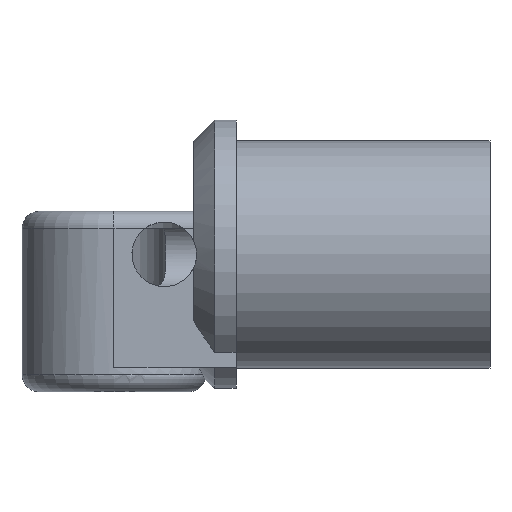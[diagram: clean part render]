
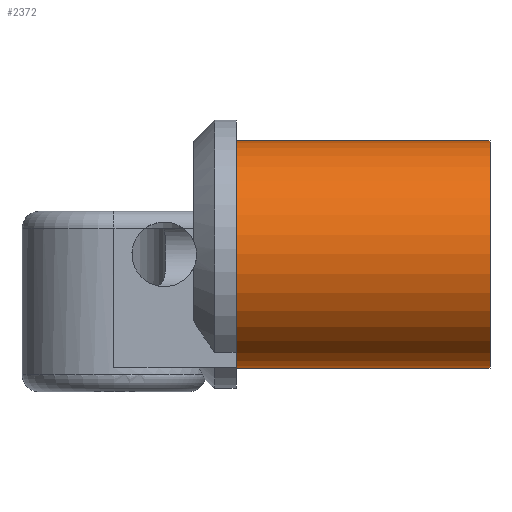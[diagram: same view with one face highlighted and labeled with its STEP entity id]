
A CAD part, top view. The second image highlights one B-rep face of the part: STEP entity #2372.
In plain terms, the highlighted cylindrical face has radius 7.9 mm (diameter 15.8 mm), a full revolution.
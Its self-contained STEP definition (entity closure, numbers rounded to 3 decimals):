
#209 = PLANE('',#210);
#210 = AXIS2_PLACEMENT_3D('',#211,#212,#213);
#211 = CARTESIAN_POINT('',(8.5,-7.9,-6.4));
#212 = DIRECTION('',(1.,0.,-0.));
#213 = DIRECTION('',(0.,0.,1.));
#794 = EDGE_CURVE('',#795,#795,#797,.T.);
#795 = VERTEX_POINT('',#796);
#796 = CARTESIAN_POINT('',(8.5,0.,-7.9));
#797 = SURFACE_CURVE('',#798,(#803,#810),.PCURVE_S1.);
#798 = CIRCLE('',#799,7.9);
#799 = AXIS2_PLACEMENT_3D('',#800,#801,#802);
#800 = CARTESIAN_POINT('',(8.5,0.,0.));
#801 = DIRECTION('',(1.,0.,0.));
#802 = DIRECTION('',(0.,0.,-1.));
#803 = PCURVE('',#209,#804);
#804 = DEFINITIONAL_REPRESENTATION('',(#805),#809);
#805 = CIRCLE('',#806,7.9);
#806 = AXIS2_PLACEMENT_2D('',#807,#808);
#807 = CARTESIAN_POINT('',(6.4,-7.9));
#808 = DIRECTION('',(-1.,0.));
#809 = ( GEOMETRIC_REPRESENTATION_CONTEXT(2) 
PARAMETRIC_REPRESENTATION_CONTEXT() REPRESENTATION_CONTEXT('2D SPACE',''
  ) );
#810 = PCURVE('',#811,#816);
#811 = CYLINDRICAL_SURFACE('',#812,7.9);
#812 = AXIS2_PLACEMENT_3D('',#813,#814,#815);
#813 = CARTESIAN_POINT('',(8.49,0.,0.));
#814 = DIRECTION('',(1.,0.,0.));
#815 = DIRECTION('',(0.,0.,-1.));
#816 = DEFINITIONAL_REPRESENTATION('',(#817),#821);
#817 = LINE('',#818,#819);
#818 = CARTESIAN_POINT('',(0.,0.01));
#819 = VECTOR('',#820,1.);
#820 = DIRECTION('',(1.,0.));
#821 = ( GEOMETRIC_REPRESENTATION_CONTEXT(2) 
PARAMETRIC_REPRESENTATION_CONTEXT() REPRESENTATION_CONTEXT('2D SPACE',''
  ) );
#2372 = ADVANCED_FACE('',(#2373),#811,.T.);
#2373 = FACE_BOUND('',#2374,.T.);
#2374 = EDGE_LOOP('',(#2375,#2398,#2425,#2426));
#2375 = ORIENTED_EDGE('',*,*,#2376,.T.);
#2376 = EDGE_CURVE('',#795,#2377,#2379,.T.);
#2377 = VERTEX_POINT('',#2378);
#2378 = CARTESIAN_POINT('',(26.17,0.,-7.9));
#2379 = SEAM_CURVE('',#2380,(#2384,#2391),.PCURVE_S1.);
#2380 = LINE('',#2381,#2382);
#2381 = CARTESIAN_POINT('',(8.49,0.,-7.9));
#2382 = VECTOR('',#2383,1.);
#2383 = DIRECTION('',(1.,0.,0.));
#2384 = PCURVE('',#811,#2385);
#2385 = DEFINITIONAL_REPRESENTATION('',(#2386),#2390);
#2386 = LINE('',#2387,#2388);
#2387 = CARTESIAN_POINT('',(6.283,-0.));
#2388 = VECTOR('',#2389,1.);
#2389 = DIRECTION('',(0.,1.));
#2390 = ( GEOMETRIC_REPRESENTATION_CONTEXT(2) 
PARAMETRIC_REPRESENTATION_CONTEXT() REPRESENTATION_CONTEXT('2D SPACE',''
  ) );
#2391 = PCURVE('',#811,#2392);
#2392 = DEFINITIONAL_REPRESENTATION('',(#2393),#2397);
#2393 = LINE('',#2394,#2395);
#2394 = CARTESIAN_POINT('',(0.,-0.));
#2395 = VECTOR('',#2396,1.);
#2396 = DIRECTION('',(0.,1.));
#2397 = ( GEOMETRIC_REPRESENTATION_CONTEXT(2) 
PARAMETRIC_REPRESENTATION_CONTEXT() REPRESENTATION_CONTEXT('2D SPACE',''
  ) );
#2398 = ORIENTED_EDGE('',*,*,#2399,.F.);
#2399 = EDGE_CURVE('',#2377,#2377,#2400,.T.);
#2400 = SURFACE_CURVE('',#2401,(#2406,#2413),.PCURVE_S1.);
#2401 = CIRCLE('',#2402,7.9);
#2402 = AXIS2_PLACEMENT_3D('',#2403,#2404,#2405);
#2403 = CARTESIAN_POINT('',(26.17,0.,0.));
#2404 = DIRECTION('',(1.,-0.,0.));
#2405 = DIRECTION('',(0.,0.,-1.));
#2406 = PCURVE('',#811,#2407);
#2407 = DEFINITIONAL_REPRESENTATION('',(#2408),#2412);
#2408 = LINE('',#2409,#2410);
#2409 = CARTESIAN_POINT('',(0.,17.68));
#2410 = VECTOR('',#2411,1.);
#2411 = DIRECTION('',(1.,0.));
#2412 = ( GEOMETRIC_REPRESENTATION_CONTEXT(2) 
PARAMETRIC_REPRESENTATION_CONTEXT() REPRESENTATION_CONTEXT('2D SPACE',''
  ) );
#2413 = PCURVE('',#2414,#2419);
#2414 = PLANE('',#2415);
#2415 = AXIS2_PLACEMENT_3D('',#2416,#2417,#2418);
#2416 = CARTESIAN_POINT('',(26.17,0.,0.));
#2417 = DIRECTION('',(1.,0.,0.));
#2418 = DIRECTION('',(0.,0.,-1.));
#2419 = DEFINITIONAL_REPRESENTATION('',(#2420),#2424);
#2420 = CIRCLE('',#2421,7.9);
#2421 = AXIS2_PLACEMENT_2D('',#2422,#2423);
#2422 = CARTESIAN_POINT('',(0.,0.));
#2423 = DIRECTION('',(1.,0.));
#2424 = ( GEOMETRIC_REPRESENTATION_CONTEXT(2) 
PARAMETRIC_REPRESENTATION_CONTEXT() REPRESENTATION_CONTEXT('2D SPACE',''
  ) );
#2425 = ORIENTED_EDGE('',*,*,#2376,.F.);
#2426 = ORIENTED_EDGE('',*,*,#794,.T.);
